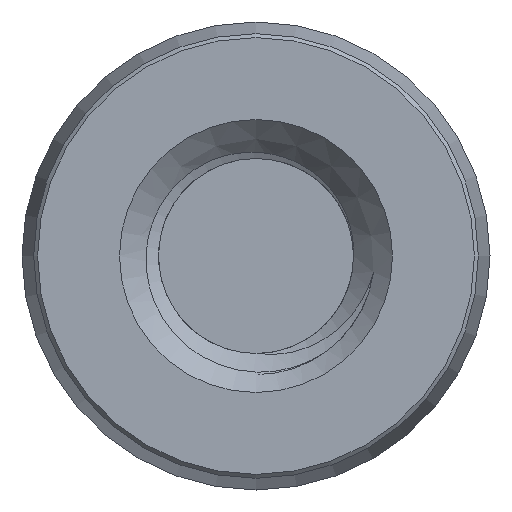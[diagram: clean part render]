
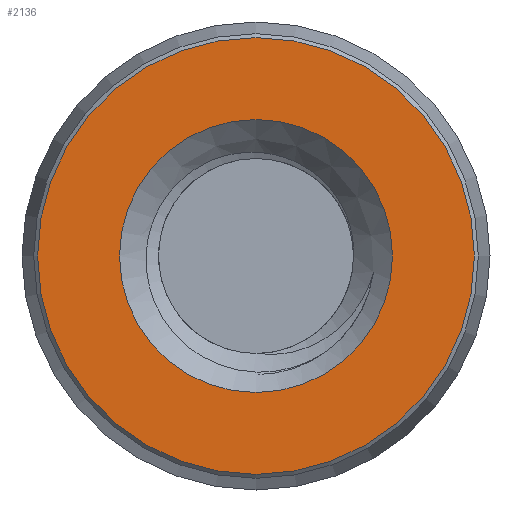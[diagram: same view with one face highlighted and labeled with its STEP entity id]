
A CAD part, front view. The second image highlights one B-rep face of the part: STEP entity #2136.
In plain terms, the highlighted planar face has unit normal (0, -1, 0).
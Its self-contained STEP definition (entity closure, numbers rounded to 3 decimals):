
#64 = EDGE_CURVE ( 'NONE', #3356, #3356, #3910, .T. ) ;
#150 = AXIS2_PLACEMENT_3D ( 'NONE', #2118, #1486, #4005 ) ;
#316 = EDGE_LOOP ( 'NONE', ( #4210 ) ) ;
#470 = PLANE ( 'NONE',  #4110 ) ;
#649 = VERTEX_POINT ( 'NONE', #832 ) ;
#809 = DIRECTION ( 'NONE',  ( 0., 1., 0. ) ) ;
#832 = CARTESIAN_POINT ( 'NONE',  ( 0., 0., 3.5 ) ) ;
#1075 = DIRECTION ( 'NONE',  ( 0., 0., 1. ) ) ;
#1112 = DIRECTION ( 'NONE',  ( 0., 1., 0. ) ) ;
#1486 = DIRECTION ( 'NONE',  ( 0., -1., 0. ) ) ;
#1753 = FACE_OUTER_BOUND ( 'NONE', #316, .T. ) ;
#2118 = CARTESIAN_POINT ( 'NONE',  ( 0., 0., 0. ) ) ;
#2136 = ADVANCED_FACE ( 'NONE', ( #4026, #1753 ), #470, .F. ) ;
#2143 = CARTESIAN_POINT ( 'NONE',  ( 0., 0., 0. ) ) ;
#2377 = CARTESIAN_POINT ( 'NONE',  ( -5.7, 0., 0. ) ) ;
#2468 = DIRECTION ( 'NONE',  ( 0., 0., 1. ) ) ;
#2653 = AXIS2_PLACEMENT_3D ( 'NONE', #2143, #809, #2468 ) ;
#3356 = VERTEX_POINT ( 'NONE', #4048 ) ;
#3460 = EDGE_CURVE ( 'NONE', #649, #649, #3765, .T. ) ;
#3640 = EDGE_LOOP ( 'NONE', ( #4195 ) ) ;
#3765 = CIRCLE ( 'NONE', #2653, 3.5 ) ;
#3910 = CIRCLE ( 'NONE', #150, 5.6 ) ;
#4005 = DIRECTION ( 'NONE',  ( 0., 0., 1. ) ) ;
#4026 = FACE_BOUND ( 'NONE', #3640, .T. ) ;
#4048 = CARTESIAN_POINT ( 'NONE',  ( 0., 0., 5.6 ) ) ;
#4110 = AXIS2_PLACEMENT_3D ( 'NONE', #2377, #1112, #1075 ) ;
#4195 = ORIENTED_EDGE ( 'NONE', *, *, #3460, .T. ) ;
#4210 = ORIENTED_EDGE ( 'NONE', *, *, #64, .T. ) ;
